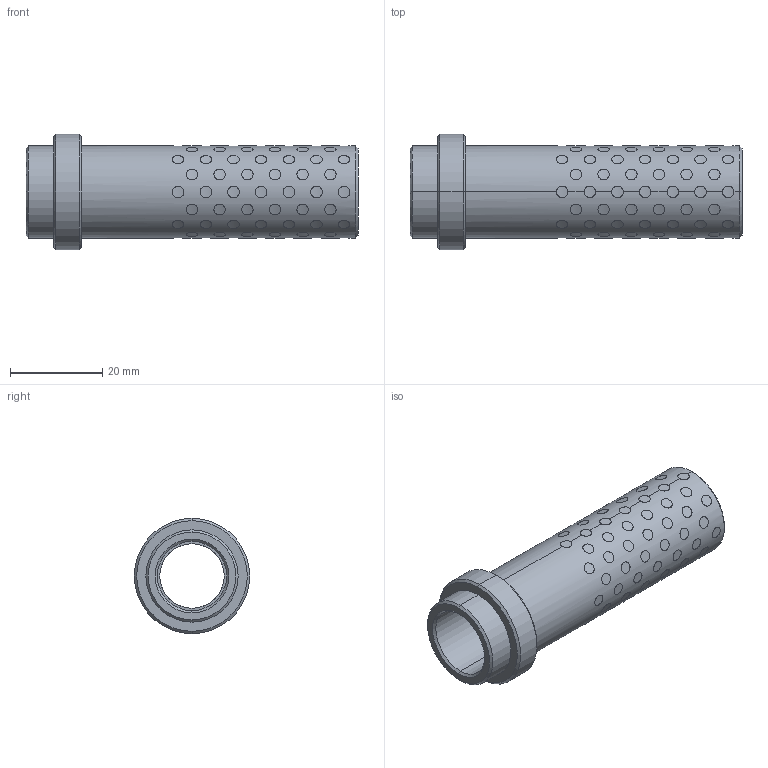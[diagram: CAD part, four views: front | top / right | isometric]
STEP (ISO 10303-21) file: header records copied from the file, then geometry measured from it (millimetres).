
FILE_DESCRIPTION((''),'2;1');
FILE_NAME('G31214066','2017-12-30T',('MANU'),(''),'PRO/ENGINEER BY PARAMETRIC TECHNOLOGY CORPORATION, 2012130','PRO/ENGINEER BY PARAMETRIC TECHNOLOGY CORPORATION, 2012130','');
FILE_SCHEMA(('CONFIG_CONTROL_DESIGN'));
Length unit declared in the file: millimetre
Products named in the file (1): G31214066
Bounding box: 72 x 25 x 25 mm (x, y, z)
Volume: 11848 mm3; surface area: 13344.2 mm2
Topology: 105 solids, 105 shells, 651 faces, 1386 edges, 920 vertices
Faces by surface type: cylinder 634, cone 12, plane 5
Entity records: 29722 total; most frequent: CARTESIAN_POINT 17049, ORIENTED_EDGE 2772, DIRECTION 1832, EDGE_CURVE 1386, VERTEX_POINT 920, B_SPLINE_CURVE_WITH_KNOTS 888, EDGE_LOOP 836, AXIS2_PLACEMENT_3D 683
